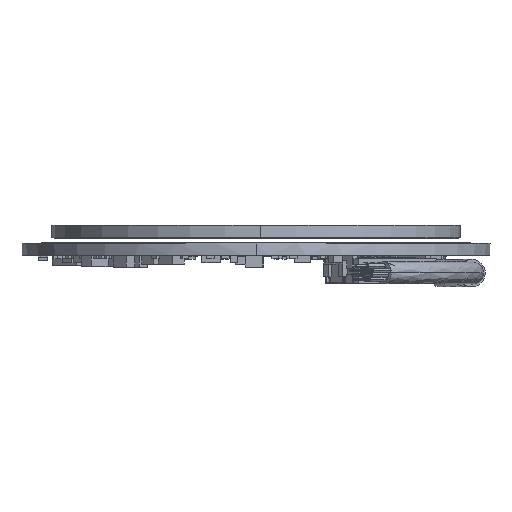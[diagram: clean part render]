
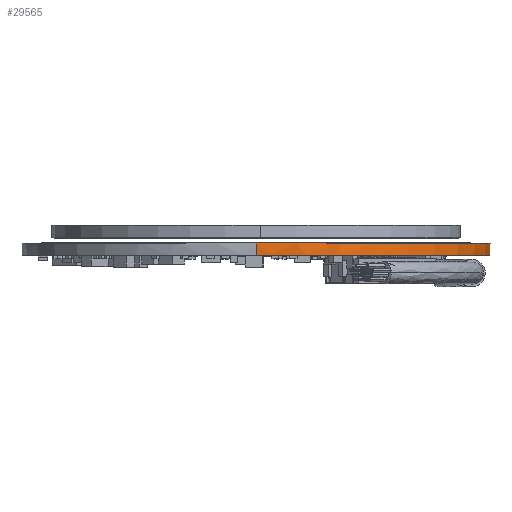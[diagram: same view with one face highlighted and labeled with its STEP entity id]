
A CAD part, top view. The second image highlights one B-rep face of the part: STEP entity #29565.
In plain terms, the highlighted cylindrical face has radius 29.85 mm (diameter 59.7 mm), a partial arc.
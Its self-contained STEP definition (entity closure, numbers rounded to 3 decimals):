
#847 = EDGE_CURVE ( 'NONE', #100497, #24090, #122520, .T. ) ;
#2191 = DIRECTION ( 'NONE',  ( 0., 1., 0. ) ) ;
#5292 = EDGE_CURVE ( 'NONE', #140652, #194407, #188829, .T. ) ;
#5384 = DIRECTION ( 'NONE',  ( 0., 1., 0. ) ) ;
#6087 = DIRECTION ( 'NONE',  ( 0., 0., 1. ) ) ;
#6821 = AXIS2_PLACEMENT_3D ( 'NONE', #192399, #19426, #111000 ) ;
#6955 = ORIENTED_EDGE ( 'NONE', *, *, #5292, .F. ) ;
#7555 = CIRCLE ( 'NONE', #160324, 29.85 ) ;
#11002 = CARTESIAN_POINT ( 'NONE',  ( 1.698, 0., 29.802 ) ) ;
#16172 = VERTEX_POINT ( 'NONE', #127608 ) ;
#18269 = VERTEX_POINT ( 'NONE', #157901 ) ;
#18521 = CARTESIAN_POINT ( 'NONE',  ( 0., -0.03, 29.85 ) ) ;
#19426 = DIRECTION ( 'NONE',  ( 0., -1., 0. ) ) ;
#22956 = EDGE_CURVE ( 'NONE', #114705, #84147, #135498, .T. ) ;
#24090 = VERTEX_POINT ( 'NONE', #11002 ) ;
#25570 = DIRECTION ( 'NONE',  ( 0., 1., 0. ) ) ;
#27197 = AXIS2_PLACEMENT_3D ( 'NONE', #28908, #5384, #175372 ) ;
#28779 = ORIENTED_EDGE ( 'NONE', *, *, #75059, .T. ) ;
#28908 = CARTESIAN_POINT ( 'NONE',  ( 0., 1.54, 0. ) ) ;
#29565 = ADVANCED_FACE ( 'NONE', ( #169433 ), #181655, .T. ) ;
#29912 = DIRECTION ( 'NONE',  ( 0., 0., -1. ) ) ;
#33981 = ORIENTED_EDGE ( 'NONE', *, *, #22956, .T. ) ;
#34569 = CARTESIAN_POINT ( 'NONE',  ( 0., 1.54, 29.85 ) ) ;
#35570 = CARTESIAN_POINT ( 'NONE',  ( 1.698, 0., -29.802 ) ) ;
#35686 = CARTESIAN_POINT ( 'NONE',  ( 29.802, -0.03, 1.698 ) ) ;
#39238 = VERTEX_POINT ( 'NONE', #18521 ) ;
#42197 = CARTESIAN_POINT ( 'NONE',  ( 0., 1.54, 0. ) ) ;
#43170 = EDGE_LOOP ( 'NONE', ( #114510, #112026, #45888, #193962, #150257, #181290, #109367, #33981, #28779, #151151, #6955, #183026 ) ) ;
#44637 = EDGE_CURVE ( 'NONE', #100497, #39238, #163501, .T. ) ;
#45888 = ORIENTED_EDGE ( 'NONE', *, *, #44637, .F. ) ;
#47949 = LINE ( 'NONE', #35686, #49497 ) ;
#49497 = VECTOR ( 'NONE', #2191, 1000. ) ;
#50024 = CIRCLE ( 'NONE', #163908, 29.85 ) ;
#52266 = DIRECTION ( 'NONE',  ( 0., 1., 0. ) ) ;
#54419 = EDGE_CURVE ( 'NONE', #194407, #167497, #194400, .T. ) ;
#55950 = VECTOR ( 'NONE', #152178, 1000. ) ;
#67430 = CARTESIAN_POINT ( 'NONE',  ( 0., 0., 0. ) ) ;
#70589 = VECTOR ( 'NONE', #85344, 1000. ) ;
#71963 = CIRCLE ( 'NONE', #199102, 29.85 ) ;
#73101 = CARTESIAN_POINT ( 'NONE',  ( 1.698, -0.03, -29.802 ) ) ;
#75059 = EDGE_CURVE ( 'NONE', #84147, #167497, #50024, .T. ) ;
#75570 = AXIS2_PLACEMENT_3D ( 'NONE', #88527, #90576, #87554 ) ;
#79042 = CARTESIAN_POINT ( 'NONE',  ( 29.802, 0., -1.698 ) ) ;
#81280 = LINE ( 'NONE', #129201, #124115 ) ;
#83421 = VECTOR ( 'NONE', #170571, 1000. ) ;
#84147 = VERTEX_POINT ( 'NONE', #79042 ) ;
#85344 = DIRECTION ( 'NONE',  ( 0., 1., 0. ) ) ;
#87554 = DIRECTION ( 'NONE',  ( 0., 0., -1. ) ) ;
#88527 = CARTESIAN_POINT ( 'NONE',  ( 0., -0.03, 0. ) ) ;
#90576 = DIRECTION ( 'NONE',  ( 0., -1., 0. ) ) ;
#90814 = EDGE_CURVE ( 'NONE', #104241, #116731, #114913, .T. ) ;
#92715 = EDGE_CURVE ( 'NONE', #116731, #140652, #139033, .T. ) ;
#100497 = VERTEX_POINT ( 'NONE', #133689 ) ;
#104241 = VERTEX_POINT ( 'NONE', #34569 ) ;
#109367 = ORIENTED_EDGE ( 'NONE', *, *, #161015, .F. ) ;
#111000 = DIRECTION ( 'NONE',  ( 0., 0., -1. ) ) ;
#112026 = ORIENTED_EDGE ( 'NONE', *, *, #148564, .T. ) ;
#114309 = EDGE_CURVE ( 'NONE', #24090, #18269, #71963, .T. ) ;
#114340 = DIRECTION ( 'NONE',  ( 0., 0., 1. ) ) ;
#114510 = ORIENTED_EDGE ( 'NONE', *, *, #90814, .F. ) ;
#114705 = VERTEX_POINT ( 'NONE', #142161 ) ;
#114913 = CIRCLE ( 'NONE', #27197, 29.85 ) ;
#116731 = VERTEX_POINT ( 'NONE', #141239 ) ;
#117945 = CARTESIAN_POINT ( 'NONE',  ( 0., 0., 0. ) ) ;
#119346 = CARTESIAN_POINT ( 'NONE',  ( 1.698, -0.03, -29.802 ) ) ;
#122520 = LINE ( 'NONE', #123509, #55950 ) ;
#123509 = CARTESIAN_POINT ( 'NONE',  ( 1.698, -0.03, 29.802 ) ) ;
#124115 = VECTOR ( 'NONE', #189275, 1000. ) ;
#127608 = CARTESIAN_POINT ( 'NONE',  ( 29.802, -0.03, 1.698 ) ) ;
#128813 = CARTESIAN_POINT ( 'NONE',  ( 0., -0.03, -29.85 ) ) ;
#129201 = CARTESIAN_POINT ( 'NONE',  ( 0., 1.54, 29.85 ) ) ;
#133562 = EDGE_CURVE ( 'NONE', #16172, #18269, #47949, .T. ) ;
#133689 = CARTESIAN_POINT ( 'NONE',  ( 1.698, -0.03, 29.802 ) ) ;
#135498 = LINE ( 'NONE', #182292, #166898 ) ;
#135855 = DIRECTION ( 'NONE',  ( 0., -1., 0. ) ) ;
#139033 = LINE ( 'NONE', #185789, #83421 ) ;
#140652 = VERTEX_POINT ( 'NONE', #128813 ) ;
#141239 = CARTESIAN_POINT ( 'NONE',  ( 0., 1.54, -29.85 ) ) ;
#142161 = CARTESIAN_POINT ( 'NONE',  ( 29.802, -0.03, -1.698 ) ) ;
#148564 = EDGE_CURVE ( 'NONE', #104241, #39238, #81280, .T. ) ;
#150257 = ORIENTED_EDGE ( 'NONE', *, *, #114309, .T. ) ;
#151151 = ORIENTED_EDGE ( 'NONE', *, *, #54419, .F. ) ;
#152178 = DIRECTION ( 'NONE',  ( 0., 1., 0. ) ) ;
#153165 = CARTESIAN_POINT ( 'NONE',  ( 0., -0.03, 0. ) ) ;
#157901 = CARTESIAN_POINT ( 'NONE',  ( 29.802, 0., 1.698 ) ) ;
#160324 = AXIS2_PLACEMENT_3D ( 'NONE', #153165, #185589, #166408 ) ;
#161015 = EDGE_CURVE ( 'NONE', #114705, #16172, #7555, .T. ) ;
#163501 = CIRCLE ( 'NONE', #75570, 29.85 ) ;
#163908 = AXIS2_PLACEMENT_3D ( 'NONE', #67430, #52266, #114340 ) ;
#166408 = DIRECTION ( 'NONE',  ( 0., 0., -1. ) ) ;
#166898 = VECTOR ( 'NONE', #25570, 1000. ) ;
#167497 = VERTEX_POINT ( 'NONE', #35570 ) ;
#169433 = FACE_OUTER_BOUND ( 'NONE', #43170, .T. ) ;
#170571 = DIRECTION ( 'NONE',  ( 0., -1., 0. ) ) ;
#174998 = AXIS2_PLACEMENT_3D ( 'NONE', #42197, #135855, #29912 ) ;
#175372 = DIRECTION ( 'NONE',  ( 0., 0., 1. ) ) ;
#179076 = DIRECTION ( 'NONE',  ( 0., 1., 0. ) ) ;
#181290 = ORIENTED_EDGE ( 'NONE', *, *, #133562, .F. ) ;
#181655 = CYLINDRICAL_SURFACE ( 'NONE', #174998, 29.85 ) ;
#182292 = CARTESIAN_POINT ( 'NONE',  ( 29.802, -0.03, -1.698 ) ) ;
#183026 = ORIENTED_EDGE ( 'NONE', *, *, #92715, .F. ) ;
#185589 = DIRECTION ( 'NONE',  ( 0., -1., 0. ) ) ;
#185789 = CARTESIAN_POINT ( 'NONE',  ( 0., 1.54, -29.85 ) ) ;
#188829 = CIRCLE ( 'NONE', #6821, 29.85 ) ;
#189275 = DIRECTION ( 'NONE',  ( 0., -1., 0. ) ) ;
#192399 = CARTESIAN_POINT ( 'NONE',  ( 0., -0.03, 0. ) ) ;
#193962 = ORIENTED_EDGE ( 'NONE', *, *, #847, .T. ) ;
#194400 = LINE ( 'NONE', #73101, #70589 ) ;
#194407 = VERTEX_POINT ( 'NONE', #119346 ) ;
#199102 = AXIS2_PLACEMENT_3D ( 'NONE', #117945, #179076, #6087 ) ;
